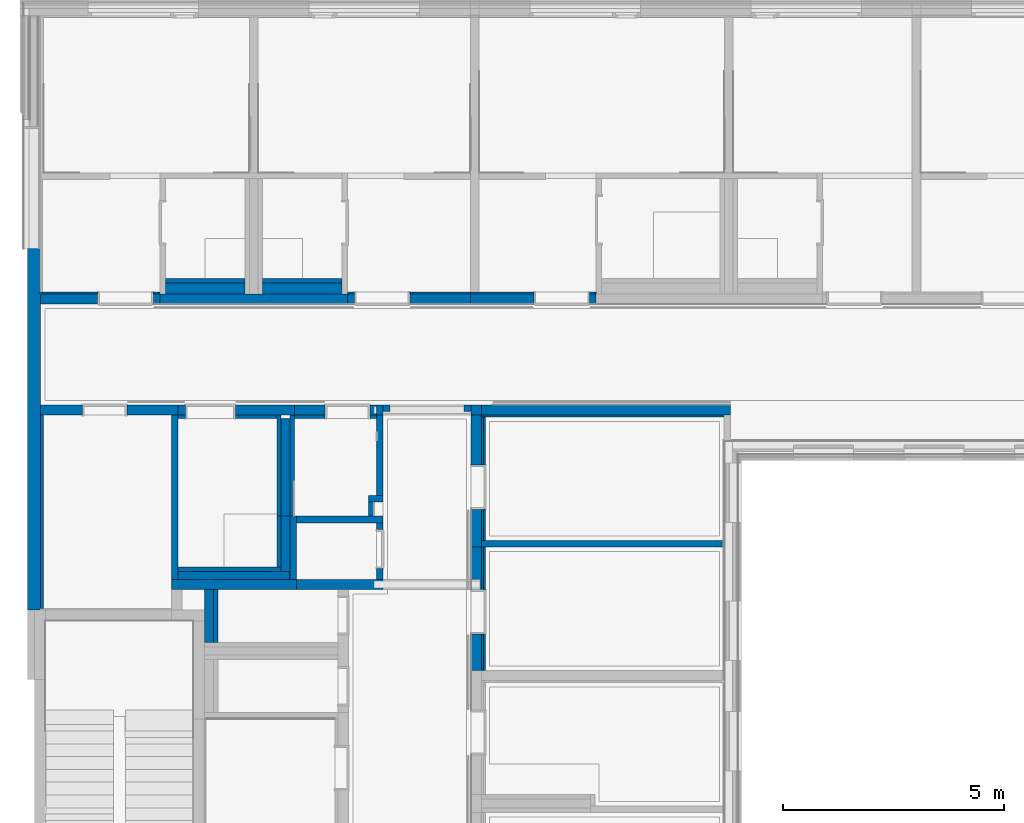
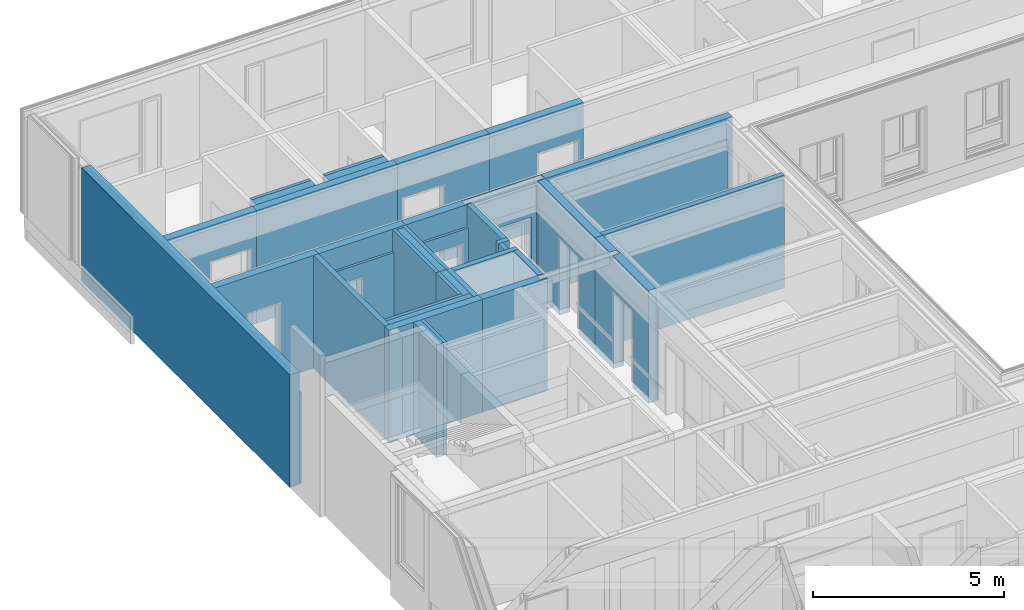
# One storey, part 16 of 207: 48 walls, 19 openings.
"""IFC4 building model written with IfcOpenShell, lengths in metres."""

from ifc_helpers import new_model, entity, si_unit, converted_unit, derived_unit, frame, frame_2d, origin, origin_with_axes, place, context, subcontext, project, spatial, polyline, rectangle, outline, extrude, clip, bounded_halfspace, material, element, save


model = new_model("IFC4")

# Units and contexts
model_context = context("Model", 3, precision=1e-05, world=origin())
body_context = subcontext(model_context, "Body", "Model", "MODEL_VIEW")
ifc_project = project(units=[si_unit("LENGTHUNIT", "METRE"), si_unit("AREAUNIT", "SQUARE_METRE"), si_unit("VOLUMEUNIT", "CUBIC_METRE"), si_unit("MASSUNIT", "GRAM", prefix="KILO"), converted_unit("PLANEANGLEUNIT", "DEGREE", entity("IfcPlaneAngleMeasure", 0.0174532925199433), si_unit("PLANEANGLEUNIT", "RADIAN"), dimensions=[0, 0, 0, 0, 0, 0, 0]), derived_unit("THERMALTRANSMITTANCEUNIT", [(si_unit("POWERUNIT", "WATT"), 1), (si_unit("THERMODYNAMICTEMPERATUREUNIT", "KELVIN"), -1), (si_unit("LENGTHUNIT", "METRE"), -2)]), derived_unit("VOLUMETRICFLOWRATEUNIT", [(si_unit("LENGTHUNIT", "METRE"), 3), (converted_unit("TIMEUNIT", "hour", entity("IfcTimeMeasure", 3600.0), si_unit("TIMEUNIT", "SECOND"), dimensions=[0, 0, 1, 0, 0, 0, 0]), -1), (si_unit("LENGTHUNIT", "METRE"), -1)])], contexts=[model_context])

# Site, building, storey
site_placement = place(None, origin())
site = spatial("IfcSite", under=ifc_project, at=site_placement, Name="Psychiatrie Neubau Wunstorf", CompositionType="ELEMENT")
building_placement = place(site_placement, origin())
building = spatial("IfcBuilding", under=site, at=building_placement, Name="Neubau H2 Stationsgebäude", CompositionType="ELEMENT")
storey_placement = place(building_placement, frame((0.0, 0.0, -0.2)))
storey = spatial("IfcBuildingStorey", under=building, at=storey_placement, Name="H2 Ebene 0", CompositionType="ELEMENT", Elevation=-0.2)

# Wall
ifc_material_1 = material(Name="WI-HW 60")
wall_1_placement = place(storey_placement, frame((0.169, 17.1949998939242, 0.0), z_axis=(0.0, 0.0, 1.0), x_axis=(2.89452144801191e-16, 1.0, 0.0)))
element("IfcWall", 1, at=wall_1_placement, inside=storey, material=ifc_material_1, context=body_context, shape_type="SweptSolid", body=[
    extrude(rectangle(XDim=10.8992446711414, YDim=0.29, at=frame_2d((5.44962233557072, 0.145), x_axis=(1.0, 0.0))), origin_with_axes(), (0.0, 0.0, 1.0), 3.6),
])

# Wall, opening
ifc_material_2 = material(Name="WI-LB")
wall_2_placement = place(storey_placement, frame((7.775, 19.1650101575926, 0.0), z_axis=(0.0, 0.0, 1.0), x_axis=(0.0, -1.0, 0.0)))
wall_2 = element("IfcWall", 2, at=wall_2_placement, inside=storey, material=ifc_material_2, context=body_context, shape_type="SweptSolid", body=[
    extrude(rectangle(XDim=1.2789969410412, YDim=0.15, at=frame_2d((0.639498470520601, 0.075), x_axis=(1.0, 0.0))), origin_with_axes(), (0.0, 0.0, 1.0), 3.6),
])
opening_1_placement = place(wall_2_placement, frame((1.03500010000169, 0.15, 0.0), z_axis=(0.0, -1.0, 0.0), x_axis=(0.0, 0.0, 1.0)))
element("IfcOpeningElement", 3, at=opening_1_placement, cuts=wall_2, Name="Türöffnung", ObjectType="Opening", context=body_context, shape_type="SweptSolid", body=[
    extrude(outline(polyline([(2.46, 0.885000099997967), (2.46, 0.0), (0.0, 0.0), (0.0, 0.885000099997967), (2.46, 0.885000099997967)])), origin_with_axes(), (0.0, 0.0, 1.0), 0.15),
])

# Wall
ifc_material_3 = material(Name="WI-LB")
wall_3_placement = place(storey_placement, frame((3.28900622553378, 17.8860132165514, 0.0), z_axis=(0.0, 0.0, 1.0), x_axis=(0.0, 1.0, 0.0)))
element("IfcWall", 4, at=wall_3_placement, inside=storey, material=ifc_material_3, context=body_context, shape_type="SweptSolid", body=[
    extrude(rectangle(XDim=3.71798678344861, YDim=0.150006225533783, at=frame_2d((1.8589933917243, 0.0750031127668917), x_axis=(1.0, 0.0))), origin_with_axes(), (0.0, 0.0, 1.0), 3.6),
])

# Wall, opening
ifc_material_4 = material(Name="WI-HW 60")
wall_4_placement = place(storey_placement, frame((0.169, 21.604, 0.0)))
wall_4 = element("IfcWall", 5, at=wall_4_placement, inside=storey, material=ifc_material_4, context=body_context, shape_type="SweptSolid", body=[
    extrude(rectangle(XDim=3.12000622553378, YDim=0.232, at=frame_2d((1.56000311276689, 0.116), x_axis=(1.0, 0.0))), origin_with_axes(), (0.0, 0.0, 1.0), 3.6),
])
opening_2_placement = place(wall_4_placement, frame((0.948454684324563, 0.0, 0.0), z_axis=(0.0, 1.0, 0.0), x_axis=(0.0, 0.0, 1.0)))
element("IfcOpeningElement", 6, at=opening_2_placement, cuts=wall_4, Name="SMT", ObjectType="Opening", context=body_context, shape_type="SweptSolid", body=[
    extrude(outline(polyline([(2.46, 1.01), (2.46, 0.0), (0.0, 0.0), (0.0, 1.01), (2.46, 1.01)])), origin_with_axes(), (0.0, 0.0, 1.0), 0.232),
])

# Walls
ifc_material_5 = material(Name="WI-HW 60")
wall_5_placement = place(storey_placement, frame((7.925, 21.836, 0.0), z_axis=(0.0, 0.0, 1.0), x_axis=(-1.0, 0.0, 0.0)))
element("IfcWall", 7, at=wall_5_placement, inside=storey, material=ifc_material_5, context=body_context, shape_type="Clipping", body=[
    clip(extrude(rectangle(XDim=0.150006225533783, YDim=0.232, at=frame_2d((0.0750031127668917, 0.116), x_axis=(1.0, 0.0))), origin_with_axes(), (0.0, 0.0, 1.0), 3.6), bounded_halfspace(frame((0.0750031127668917, 0.11600156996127, 3.4), z_axis=(0.0, 0.0, -1.0), x_axis=(0.0, 1.0, 0.0)), True, origin_with_axes(), polyline([(0.150006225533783, 0.0360015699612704), (0.150006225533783, 0.19600156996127), (0.0, 0.19600156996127), (0.0, 0.0360015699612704), (0.150006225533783, 0.0360015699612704)]))),
])
ifc_material_6 = material(Name="WI-HW 60")
wall_6_placement = place(storey_placement, frame((5.97040586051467, 17.8860132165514, 0.0), z_axis=(0.0, 0.0, 1.0), x_axis=(-1.0, 0.0, 0.0)))
element("IfcWall", 8, at=wall_6_placement, inside=storey, material=ifc_material_6, context=body_context, shape_type="SweptSolid", body=[
    extrude(outline(polyline([(-2.83140586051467, -0.232), (0.0, -0.232), (0.0, 0.0), (-2.83138824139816, 0.0), (-2.83140586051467, -0.232)])), frame((2.83140586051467, 0.232, 0.0), z_axis=(0.0, 0.0, 1.0), x_axis=(1.0, 0.0, 0.0)), (0.0, 0.0, 1.0), 3.6),
])
ifc_material_7 = material(Name="WI-LB")
wall_7_placement = place(storey_placement, frame((15.639, 18.768, 0.0), z_axis=(0.0, 0.0, 1.0), x_axis=(-1.0, 0.0, 0.0)))
element("IfcWall", 9, at=wall_7_placement, inside=storey, material=ifc_material_7, context=body_context, shape_type="SweptSolid", body=[
    extrude(rectangle(XDim=5.48949997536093, YDim=0.15, at=frame_2d((2.74474998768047, 0.075), x_axis=(1.0, 0.0))), origin_with_axes(), (0.0, 0.0, 1.0), 3.6),
])
ifc_material_8 = material(Name="WI-HW 60")
wall_8_placement = place(storey_placement, frame((15.789, 21.836, 0.0), z_axis=(0.0, 0.0, 1.0), x_axis=(-1.0, 0.0, 0.0)))
element("IfcWall", 10, at=wall_8_placement, inside=storey, material=ifc_material_8, context=body_context, shape_type="SweptSolid", body=[
    extrude(rectangle(XDim=5.63949997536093, YDim=0.232, at=frame_2d((2.81974998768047, 0.116), x_axis=(1.0, 0.0))), origin_with_axes(), (0.0, 0.0, 1.0), 3.6),
])
ifc_material_9 = material(Name="WI-LB")
wall_9_placement = place(storey_placement, frame((15.639, 21.604, 0.0), z_axis=(0.0, 0.0, 1.0), x_axis=(-1.0, 0.0, 0.0)))
element("IfcWall", 11, at=wall_9_placement, inside=storey, material=ifc_material_9, context=body_context, shape_type="SweptSolid", body=[
    extrude(rectangle(XDim=5.48949997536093, YDim=0.04, at=frame_2d((2.74474998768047, 0.02), x_axis=(1.0, 0.0))), origin_with_axes(), (0.0, 0.0, 1.0), 2.95),
])

# Wall, opening
ifc_material_10 = material(Name="WI-LB")
wall_10_placement = place(storey_placement, frame((10.2390000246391, 18.768, 0.0), z_axis=(0.0, 0.0, 1.0), x_axis=(0.0, 1.0, 0.0)))
wall_10 = element("IfcWall", 12, at=wall_10_placement, inside=storey, material=ifc_material_10, context=body_context, shape_type="SweptSolid", body=[
    extrude(rectangle(XDim=2.796, YDim=0.0395, at=frame_2d((1.398, 0.01975), x_axis=(1.0, 0.0))), origin_with_axes(), (0.0, 0.0, 1.0), 2.95),
])
opening_3_placement = place(wall_10_placement, frame((1.71, 0.0395, 0.0), z_axis=(0.0, -1.0, 0.0), x_axis=(0.0, 0.0, 1.0)))
element("IfcOpeningElement", 13, at=opening_3_placement, cuts=wall_10, Name="Türöffnung", ObjectType="Opening", context=body_context, shape_type="SweptSolid", body=[
    extrude(outline(polyline([(2.46, 1.01), (2.46, 0.0), (0.0, 0.0), (0.0, 1.01), (2.46, 1.01)])), origin_with_axes(), (0.0, 0.0, 1.0), 0.0395),
])

ifc_material_11 = material(Name="Installationsraum")
wall_11_placement = place(storey_placement, frame((10.1995000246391, 18.768, 0.0), z_axis=(0.0, 0.0, 1.0), x_axis=(0.0, 1.0, 0.0)))
wall_11 = element("IfcWall", 14, at=wall_11_placement, inside=storey, material=ifc_material_11, context=body_context, shape_type="SweptSolid", body=[
    extrude(outline(polyline([(0.0, -0.05), (2.796, -0.05), (2.796, -0.01975), (2.796, 0.0), (0.0, 0.0), (0.0, -0.05)])), frame((0.0, 0.05, 0.0), z_axis=(0.0, 0.0, 1.0), x_axis=(1.0, 0.0, 0.0)), (0.0, 0.0, 1.0), 2.95),
])
opening_4_placement = place(wall_11_placement, frame((1.71, 0.05, 0.0), z_axis=(0.0, -1.0, 0.0), x_axis=(0.0, 0.0, 1.0)))
element("IfcOpeningElement", 15, at=opening_4_placement, cuts=wall_11, Name="Türöffnung", ObjectType="Opening", context=body_context, shape_type="SweptSolid", body=[
    extrude(outline(polyline([(2.46, 1.01), (2.46, 0.0), (0.0, 0.0), (0.0, 1.01), (2.46, 1.01)])), origin_with_axes(), (0.0, 0.0, 1.0), 0.05),
])

ifc_material_12 = material(Name="WI-HW 60")
wall_12_placement = place(storey_placement, frame((10.1495000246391, 18.618, 0.0), z_axis=(0.0, 0.0, 1.0), x_axis=(0.0, 1.0, 0.0)))
wall_12 = element("IfcWall", 16, at=wall_12_placement, inside=storey, material=ifc_material_12, context=body_context, shape_type="SweptSolid", body=[
    extrude(rectangle(XDim=2.986, YDim=0.232, at=frame_2d((1.493, 0.116), x_axis=(1.0, 0.0))), origin_with_axes(), (0.0, 0.0, 1.0), 3.6),
])
opening_5_placement = place(wall_12_placement, frame((1.86, 0.232, 0.0), z_axis=(0.0, -1.0, 0.0), x_axis=(0.0, 0.0, 1.0)))
element("IfcOpeningElement", 17, at=opening_5_placement, cuts=wall_12, Name="Türöffnung", ObjectType="Opening", context=body_context, shape_type="SweptSolid", body=[
    extrude(outline(polyline([(2.46, 1.01), (2.46, 0.0), (0.0, 0.0), (0.0, 1.01), (2.46, 1.01)])), origin_with_axes(), (0.0, 0.0, 1.0), 0.232),
])

# Walls
ifc_material_13 = material(Name="WI-LB")
wall_13_placement = place(storey_placement, frame((7.925, 19.7900101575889, 0.0), z_axis=(0.0, 0.0, 1.0), x_axis=(0.0, 1.0, 0.0)))
element("IfcWall", 18, at=wall_13_placement, inside=storey, material=ifc_material_13, context=body_context, shape_type="SweptSolid", body=[
    extrude(rectangle(XDim=1.81398984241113, YDim=0.150006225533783, at=frame_2d((0.906994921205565, 0.0750031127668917), x_axis=(1.0, 0.0))), origin_with_axes(), (0.0, 0.0, 1.0), 3.6),
])
ifc_material_14 = material(Name="WI-LB")
wall_14_placement = place(storey_placement, frame((7.725, 19.3150163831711, 0.0), z_axis=(0.0, 0.0, 1.0), x_axis=(0.0, 1.0, 0.0)))
element("IfcWall", 19, at=wall_14_placement, inside=storey, material=ifc_material_14, context=body_context, shape_type="SweptSolid", body=[
    extrude(rectangle(XDim=0.325, YDim=0.125, at=frame_2d((0.1625, 0.0625), x_axis=(1.0, 0.0))), origin_with_axes(), (0.0, 0.0, 1.0), 3.6),
])
ifc_material_15 = material(Name="WI-LB")
wall_15_placement = place(storey_placement, frame((7.925, 19.6400163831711, 0.0), z_axis=(0.0, 0.0, 1.0), x_axis=(0.0, 1.0, 0.0)))
element("IfcWall", 20, at=wall_15_placement, inside=storey, material=ifc_material_15, context=body_context, shape_type="SweptSolid", body=[
    extrude(rectangle(XDim=0.149993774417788, YDim=0.325, at=frame_2d((0.0749968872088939, 0.1625), x_axis=(1.0, 0.0))), origin_with_axes(), (0.0, 0.0, 1.0), 3.6),
])

# Wall, opening
ifc_material_16 = material(Name="WI-LB")
wall_16_placement = place(storey_placement, frame((10.2390000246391, 15.8255, 0.0), z_axis=(0.0, 0.0, 1.0), x_axis=(0.0, 1.0, 0.0)))
wall_16 = element("IfcWall", 21, at=wall_16_placement, inside=storey, material=ifc_material_16, context=body_context, shape_type="SweptSolid", body=[
    extrude(rectangle(XDim=2.7925, YDim=0.0395, at=frame_2d((1.39625, 0.01975), x_axis=(1.0, 0.0))), origin_with_axes(), (0.0, 0.0, 1.0), 2.95),
])
opening_6_placement = place(wall_16_placement, frame((1.82851321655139, 0.0395, 0.0), z_axis=(0.0, -1.0, 0.0), x_axis=(0.0, 0.0, 1.0)))
element("IfcOpeningElement", 22, at=opening_6_placement, cuts=wall_16, Name="Türöffnung", ObjectType="Opening", context=body_context, shape_type="SweptSolid", body=[
    extrude(outline(polyline([(2.46, 1.01), (2.46, 0.0), (0.0, 0.0), (0.0, 1.01), (2.46, 1.01)])), origin_with_axes(), (0.0, 0.0, 1.0), 0.0395),
])

ifc_material_17 = material(Name="Installationsraum")
wall_17_placement = place(storey_placement, frame((10.1995000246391, 15.8255, 0.0), z_axis=(0.0, 0.0, 1.0), x_axis=(0.0, 1.0, 0.0)))
wall_17 = element("IfcWall", 23, at=wall_17_placement, inside=storey, material=ifc_material_17, context=body_context, shape_type="SweptSolid", body=[
    extrude(rectangle(XDim=2.7925, YDim=0.05, at=frame_2d((1.39625, 0.025), x_axis=(1.0, 0.0))), origin_with_axes(), (0.0, 0.0, 1.0), 2.95),
])
opening_7_placement = place(wall_17_placement, frame((1.82851321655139, 0.05, 0.0), z_axis=(0.0, -1.0, 0.0), x_axis=(0.0, 0.0, 1.0)))
element("IfcOpeningElement", 24, at=opening_7_placement, cuts=wall_17, Name="Türöffnung", ObjectType="Opening", context=body_context, shape_type="SweptSolid", body=[
    extrude(outline(polyline([(2.46, 1.01), (2.46, 0.0), (0.0, 0.0), (0.0, 1.01), (2.46, 1.01)])), origin_with_axes(), (0.0, 0.0, 1.0), 0.05),
])

ifc_material_18 = material(Name="WI-HW 60")
wall_18_placement = place(storey_placement, frame((10.1495000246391, 15.8255, 0.0), z_axis=(0.0, 0.0, 1.0), x_axis=(0.0, 1.0, 0.0)))
wall_18 = element("IfcWall", 25, at=wall_18_placement, inside=storey, material=ifc_material_18, context=body_context, shape_type="Clipping", body=[
    clip(extrude(rectangle(XDim=2.7925, YDim=0.232, at=frame_2d((1.39625, 0.116), x_axis=(1.0, 0.0))), origin_with_axes(), (0.0, 0.0, 1.0), 3.6), bounded_halfspace(frame((1.9445126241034, 0.12825213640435, 3.4), z_axis=(0.0, 0.0, -1.0), x_axis=(-1.0, 0.0, 0.0)), True, origin_with_axes(), polyline([(2.02451262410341, 0.232), (1.8645126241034, 0.232), (1.8645126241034, 0.0245042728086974), (2.02451262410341, 0.0245042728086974), (2.02451262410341, 0.232)]))),
])
opening_8_placement = place(wall_18_placement, frame((1.82851321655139, 0.232, 0.0), z_axis=(0.0, -1.0, 0.0), x_axis=(0.0, 0.0, 1.0)))
element("IfcOpeningElement", 26, at=opening_8_placement, cuts=wall_18, Name="Türöffnung", ObjectType="Opening", context=body_context, shape_type="SweptSolid", body=[
    extrude(outline(polyline([(2.46, 1.01), (2.46, 0.0), (0.0, 0.0), (0.0, 1.01), (2.46, 1.01)])), origin_with_axes(), (0.0, 0.0, 1.0), 0.232),
])

ifc_material_19 = material(Name="WI-HW 60")
wall_19_placement = place(storey_placement, frame((0.169, 24.1175, 0.0), z_axis=(0.0, 0.0, 1.0), x_axis=(1.0, 2.6888239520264e-15, 0.0)))
wall_19 = element("IfcWall", 27, at=wall_19_placement, inside=storey, material=ifc_material_19, context=body_context, shape_type="SweptSolid", body=[
    extrude(rectangle(XDim=2.706, YDim=0.232, at=frame_2d((1.353, 0.116), x_axis=(1.0, 0.0))), origin_with_axes(), (0.0, 0.0, 1.0), 3.6),
])
opening_9_placement = place(wall_19_placement, frame((1.296, 0.0, 0.0), z_axis=(2.940176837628e-15, 1.0, 0.0), x_axis=(0.0, 0.0, 1.0)))
element("IfcOpeningElement", 28, at=opening_9_placement, cuts=wall_19, Name="Türöffnung", ObjectType="Opening", context=body_context, shape_type="SweptSolid", body=[
    extrude(outline(polyline([(2.46, 1.26), (2.46, 0.0), (0.0, 0.0), (0.0, 1.26), (2.46, 1.26)])), origin_with_axes(), (0.0, 0.0, 1.0), 0.232),
])

ifc_material_20 = material(Name="WI-LB")
wall_20_placement = place(storey_placement, frame((0.169, 24.3495, 0.0), z_axis=(0.0, 0.0, 1.0), x_axis=(1.0, 2.68882395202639e-15, 0.0)))
wall_20 = element("IfcWall", 29, at=wall_20_placement, inside=storey, material=ifc_material_20, context=body_context, shape_type="SweptSolid", body=[
    extrude(rectangle(XDim=2.706, YDim=0.04, at=frame_2d((1.353, 0.02), x_axis=(1.0, 0.0))), origin_with_axes(), (0.0, 0.0, 1.0), 2.9),
])
opening_10_placement = place(wall_20_placement, frame((1.296, 0.0, 0.0), z_axis=(0.0, 1.0, 0.0), x_axis=(0.0, 0.0, 1.0)))
element("IfcOpeningElement", 30, at=opening_10_placement, cuts=wall_20, Name="Türöffnung", ObjectType="Opening", context=body_context, shape_type="SweptSolid", body=[
    extrude(outline(polyline([(2.46, 1.26), (2.46, 0.0), (0.0, 0.0), (0.0, 1.26), (2.46, 1.26)])), origin_with_axes(), (0.0, 0.0, 1.0), 0.04),
])

# Walls
ifc_material_21 = material(Name="WI-HW 60")
wall_21_placement = place(storey_placement, frame((2.875, 24.1175, 0.0), z_axis=(0.0, 0.0, 1.0), x_axis=(1.0, 1.71199002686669e-15, 0.0)))
element("IfcWall", 31, at=wall_21_placement, inside=storey, material=ifc_material_21, context=body_context, shape_type="SweptSolid", body=[
    extrude(rectangle(XDim=4.25, YDim=0.232, at=frame_2d((2.125, 0.116), x_axis=(1.0, 0.0))), origin_with_axes(), (0.0, 0.0, 1.0), 3.6),
])
ifc_material_22 = material(Name="WI-LB")
wall_22_placement = place(storey_placement, frame((7.925, 19.3150163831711, 0.0), z_axis=(0.0, 0.0, 1.0), x_axis=(-1.0, 1.7589743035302e-12, 0.0)))
element("IfcWall", 32, at=wall_22_placement, inside=storey, material=ifc_material_22, context=body_context, shape_type="SweptSolid", body=[
    extrude(outline(polyline([(-1.95449700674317, -0.150006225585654), (-1.13921426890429e-05, -0.150006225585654), (0.0, 0.0), (-1.95449700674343, 0.0), (-1.95449700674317, -0.150006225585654)])), frame((1.95449700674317, 0.150006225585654, 0.0), z_axis=(0.0, 0.0, 1.0), x_axis=(1.0, 0.0, 0.0)), (0.0, 0.0, 1.0), 3.6),
])
ifc_material_23 = material(Name="Installationsraum")
wall_23_placement = place(storey_placement, frame((3.28900622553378, 17.8860132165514, 0.0)))
element("IfcWall", 33, at=wall_23_placement, inside=storey, material=ifc_material_23, context=body_context, shape_type="SweptSolid", body=[
    extrude(rectangle(XDim=2.51610990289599, YDim=0.174961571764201, at=frame_2d((1.25805495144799, 0.0874807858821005), x_axis=(1.0, 0.0))), origin_with_axes(), (0.0, 0.0, 1.0), 3.6),
])
ifc_material_24 = material(Name="WI-VS")
wall_24_placement = place(storey_placement, frame((3.28900622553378, 18.0609747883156, 0.0)))
element("IfcWall", 34, at=wall_24_placement, inside=storey, material=ifc_material_24, context=body_context, shape_type="SweptSolid", body=[
    extrude(rectangle(XDim=2.33150990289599, YDim=0.1, at=frame_2d((1.16575495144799, 0.05), x_axis=(1.0, 0.0))), origin_with_axes(), (0.0, 0.0, 1.0), 3.6),
])
ifc_material_25 = material(Name="WI-LB")
wall_25_placement = place(storey_placement, frame((5.97040586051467, 17.8860132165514, 0.0), z_axis=(0.0, 0.0, 1.0), x_axis=(7.59444674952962e-05, 0.999999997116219, 0.0)))
element("IfcWall", 35, at=wall_25_placement, inside=storey, material=ifc_material_25, context=body_context, shape_type="SweptSolid", body=[
    extrude(outline(polyline([(1.13921429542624e-05, -0.150006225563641), (1.42901456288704, -0.150006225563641), (1.42900317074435, 0.0), (0.0, 0.0), (1.13921429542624e-05, -0.150006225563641)])), frame((-1.13921429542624e-05, 0.150006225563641, 0.0), z_axis=(0.0, 0.0, 1.0), x_axis=(1.0, 0.0, 0.0)), (0.0, 0.0, 1.0), 3.6),
])
ifc_material_26 = material(Name="WI-HW 60")
wall_26_placement = place(storey_placement, frame((7.92499202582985, 17.8860132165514, 0.0), z_axis=(0.0, 0.0, 1.0), x_axis=(-1.0, 0.0, 0.0)))
element("IfcWall", 36, at=wall_26_placement, inside=storey, material=ifc_material_26, context=body_context, shape_type="Clipping", body=[
    clip(extrude(rectangle(XDim=1.95458616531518, YDim=0.232, at=frame_2d((0.977293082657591, 0.116), x_axis=(1.0, 0.0))), origin_with_axes(), (0.0, 0.0, 1.0), 3.6), bounded_halfspace(frame((0.100001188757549, 0.116000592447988, 3.4), z_axis=(0.0, 0.0, -1.0), x_axis=(0.0, 1.0, 0.0)), True, origin_with_axes(), polyline([(0.200002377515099, 0.0360005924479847), (0.200002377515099, 0.196000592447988), (0.0, 0.196000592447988), (0.0, 0.0360005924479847), (0.200002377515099, 0.0360005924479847)]))),
])
ifc_material_27 = material(Name="WI-IW")
wall_27_placement = place(storey_placement, frame((5.52039963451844, 19.3150163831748, 0.0), z_axis=(0.0, 0.0, 1.0), x_axis=(0.0, -1.0, 0.0)))
element("IfcWall", 37, at=wall_27_placement, inside=storey, material=ifc_material_27, context=body_context, shape_type="SweptSolid", body=[
    extrude(rectangle(XDim=1.15404159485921, YDim=0.100001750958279, at=frame_2d((0.577020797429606, 0.0500008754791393), x_axis=(1.0, 0.0))), origin_with_axes(), (0.0, 0.0, 1.0), 3.6),
])
ifc_material_28 = material(Name="Installationsraum")
wall_28_placement = place(storey_placement, frame((5.62040138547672, 19.3150163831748, 0.0), z_axis=(0.0, 0.0, 1.0), x_axis=(0.0, -1.0, 0.0)))
element("IfcWall", 38, at=wall_28_placement, inside=storey, material=ifc_material_28, context=body_context, shape_type="SweptSolid", body=[
    extrude(outline(polyline([(-1.42900316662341, 0.0), (-0.274961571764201, 0.0), (-0.274961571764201, 0.000114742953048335), (-0.174961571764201, 0.000114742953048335), (-0.174961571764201, 0.184714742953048), (0.0, 0.184714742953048), (0.0, 0.199998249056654), (-1.42900316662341, 0.199998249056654), (-1.42900316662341, 0.0)])), frame((1.42900316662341, 0.0, 0.0), z_axis=(0.0, 0.0, 1.0), x_axis=(1.0, 0.0, 0.0)), (0.0, 0.0, 1.0), 3.6),
])
ifc_material_29 = material(Name="WI-IW")
wall_29_placement = place(storey_placement, frame((5.52050815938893, 21.604, 0.0), z_axis=(0.0, 0.0, 1.0), x_axis=(0.0, -1.0, 0.0)))
element("IfcWall", 39, at=wall_29_placement, inside=storey, material=ifc_material_29, context=body_context, shape_type="SweptSolid", body=[
    extrude(rectangle(XDim=2.28898361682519, YDim=0.100001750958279, at=frame_2d((1.1444918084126, 0.0500008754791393), x_axis=(1.0, 0.0))), origin_with_axes(), (0.0, 0.0, 1.0), 3.6),
])
ifc_material_30 = material(Name="Installationsraum")
wall_30_placement = place(storey_placement, frame((5.62050991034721, 21.529, 0.0), z_axis=(0.0, 0.0, 1.0), x_axis=(0.0, -1.0, 0.0)))
element("IfcWall", 40, at=wall_30_placement, inside=storey, material=ifc_material_30, context=body_context, shape_type="SweptSolid", body=[
    extrude(rectangle(XDim=2.21398361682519, YDim=0.199998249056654, at=frame_2d((1.1069918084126, 0.0999991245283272), x_axis=(1.0, 0.0))), origin_with_axes(), (0.0, 0.0, 1.0), 3.6),
])
ifc_material_31 = material(Name="WI-LB")
wall_31_placement = place(storey_placement, frame((5.82050815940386, 21.604, 0.0), z_axis=(0.0, 0.0, 1.0), x_axis=(0.0, -1.0, 0.0)))
element("IfcWall", 41, at=wall_31_placement, inside=storey, material=ifc_material_31, context=body_context, shape_type="SweptSolid", body=[
    extrude(rectangle(XDim=2.28898361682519, YDim=0.1, at=frame_2d((1.1444918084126, 0.05), x_axis=(1.0, 0.0))), origin_with_axes(), (0.0, 0.0, 1.0), 3.6),
])

# Wall, opening
ifc_material_32 = material(Name="WI-HW 60")
wall_32_placement = place(storey_placement, frame((9.9, 24.1175, 0.0), z_axis=(0.0, 0.0, 1.0), x_axis=(1.0, 2.55296758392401e-15, 0.0)))
wall_32 = element("IfcWall", 42, at=wall_32_placement, inside=storey, material=ifc_material_32, context=body_context, shape_type="SweptSolid", body=[
    extrude(rectangle(XDim=2.85, YDim=0.232, at=frame_2d((1.425, 0.116), x_axis=(1.0, 0.0))), origin_with_axes(), (0.0, 0.0, 1.0), 3.6),
])
opening_11_placement = place(wall_32_placement, frame((1.44, 0.0, 0.0), z_axis=(2.940176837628e-15, 1.0, 0.0), x_axis=(0.0, 0.0, 1.0)))
element("IfcOpeningElement", 43, at=opening_11_placement, cuts=wall_32, Name="Türöffnung", ObjectType="Opening", context=body_context, shape_type="SweptSolid", body=[
    extrude(outline(polyline([(2.46, 1.26), (2.46, 0.0), (0.0, 0.0), (0.0, 1.26), (2.46, 1.26)])), origin_with_axes(), (0.0, 0.0, 1.0), 0.232),
])

ifc_material_33 = material(Name="WI-LB")
wall_33_placement = place(storey_placement, frame((9.9, 24.3495, 0.0), z_axis=(0.0, 0.0, 1.0), x_axis=(1.0, 2.55296758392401e-15, 0.0)))
wall_33 = element("IfcWall", 44, at=wall_33_placement, inside=storey, material=ifc_material_33, context=body_context, shape_type="SweptSolid", body=[
    extrude(rectangle(XDim=2.85, YDim=0.04, at=frame_2d((1.425, 0.02), x_axis=(1.0, 0.0))), origin_with_axes(), (0.0, 0.0, 1.0), 2.9),
])
opening_12_placement = place(wall_33_placement, frame((1.44, 0.0, 0.0), z_axis=(0.0, 1.0, 0.0), x_axis=(0.0, 0.0, 1.0)))
element("IfcOpeningElement", 45, at=opening_12_placement, cuts=wall_33, Name="Türöffnung", ObjectType="Opening", context=body_context, shape_type="SweptSolid", body=[
    extrude(outline(polyline([(2.46, 1.26), (2.46, 0.0), (0.0, 0.0), (0.0, 1.26), (2.46, 1.26)])), origin_with_axes(), (0.0, 0.0, 1.0), 0.04),
])

ifc_material_34 = material(Name="WI-HW 60")
wall_34_placement = place(storey_placement, frame((7.125, 24.1175, 0.0), z_axis=(0.0, 0.0, 1.0), x_axis=(1.0, 2.62196670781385e-15, 0.0)))
wall_34 = element("IfcWall", 46, at=wall_34_placement, inside=storey, material=ifc_material_34, context=body_context, shape_type="SweptSolid", body=[
    extrude(rectangle(XDim=2.775, YDim=0.232, at=frame_2d((1.3875, 0.116), x_axis=(1.0, 0.0))), origin_with_axes(), (0.0, 0.0, 1.0), 3.6),
])
opening_13_placement = place(wall_34_placement, frame((0.15, 0.0, 0.0), z_axis=(2.5726547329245e-15, 1.0, 0.0), x_axis=(0.0, 0.0, 1.0)))
element("IfcOpeningElement", 47, at=opening_13_placement, cuts=wall_34, Name="Türöffnung", ObjectType="Opening", context=body_context, shape_type="SweptSolid", body=[
    extrude(outline(polyline([(2.46, 1.26), (2.46, 0.0), (0.0, 0.0), (0.0, 1.26), (2.46, 1.26)])), origin_with_axes(), (0.0, 0.0, 1.0), 0.232),
])

ifc_material_35 = material(Name="WI-LB")
wall_35_placement = place(storey_placement, frame((7.125, 24.3495, 0.0), z_axis=(0.0, 0.0, 1.0), x_axis=(1.0, 2.62196670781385e-15, 0.0)))
wall_35 = element("IfcWall", 48, at=wall_35_placement, inside=storey, material=ifc_material_35, context=body_context, shape_type="SweptSolid", body=[
    extrude(rectangle(XDim=2.775, YDim=0.04, at=frame_2d((1.3875, 0.02), x_axis=(1.0, 0.0))), origin_with_axes(), (0.0, 0.0, 1.0), 2.9),
])
opening_14_placement = place(wall_35_placement, frame((0.15, 0.0, 0.0), z_axis=(2.8421709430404e-15, 1.0, 0.0), x_axis=(0.0, 0.0, 1.0)))
element("IfcOpeningElement", 49, at=opening_14_placement, cuts=wall_35, Name="Türöffnung", ObjectType="Opening", context=body_context, shape_type="SweptSolid", body=[
    extrude(outline(polyline([(2.46, 1.26), (2.46, 0.0), (0.0, 0.0), (0.0, 1.26), (2.46, 1.26)])), origin_with_axes(), (0.0, 0.0, 1.0), 0.04),
])

ifc_material_36 = material(Name="WI-LW 60")
wall_36_placement = place(storey_placement, frame((9.9175, 21.836, 0.0), z_axis=(0.0, 0.0, 1.0), x_axis=(-1.0, 0.0, 0.0)))
wall_36 = element("IfcWall", 50, at=wall_36_placement, inside=storey, material=ifc_material_36, context=body_context, shape_type="Clipping", body=[
    clip(extrude(rectangle(XDim=1.9925, YDim=0.155, at=frame_2d((0.99625, 0.0775), x_axis=(1.0, 0.0))), origin_with_axes(), (0.0, 0.0, 1.0), 3.6), bounded_halfspace(frame((0.99625, 0.0955007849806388, 3.4), z_axis=(0.0, 0.0, -1.0), x_axis=(1.0, -5.47750886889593e-15, 0.0)), True, origin_with_axes(), polyline([(0.0, 0.036001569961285), (1.9925, 0.0360015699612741), (1.9925, 0.155), (0.0, 0.155), (0.0, 0.036001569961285)]))),
])
opening_15_placement = place(wall_36_placement, frame((1.8375, 0.155, 0.0), z_axis=(0.0, -1.0, 0.0), x_axis=(0.0, 0.0, 1.0)))
element("IfcOpeningElement", 51, at=opening_15_placement, cuts=wall_36, Name="Türöffnung", ObjectType="Opening", context=body_context, shape_type="SweptSolid", body=[
    extrude(outline(polyline([(2.46, 1.6825), (2.46, 0.0), (0.0, 0.0), (0.0, 1.6825), (2.46, 1.6825)])), origin_with_axes(), (0.0, 0.0, 1.0), 0.155),
])

# Walls
ifc_material_37 = material(Name="Installationsraum")
wall_37_placement = place(storey_placement, frame((3.88, 17.6540132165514, 0.0), z_axis=(0.0, 0.0, 1.0), x_axis=(0.0, -1.0, 0.0)))
element("IfcWall", 52, at=wall_37_placement, inside=storey, material=ifc_material_37, context=body_context, shape_type="SweptSolid", body=[
    extrude(rectangle(XDim=1.20200000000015, YDim=0.21, at=frame_2d((0.601000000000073, 0.105), x_axis=(1.0, 0.0))), origin_with_axes(), (0.0, 0.0, 1.0), 3.6),
])
ifc_material_38 = material(Name="WI-VS")
wall_38_placement = place(storey_placement, frame((4.09, 17.6540132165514, 0.0), z_axis=(0.0, 0.0, 1.0), x_axis=(0.0, -1.0, 0.0)))
element("IfcWall", 53, at=wall_38_placement, inside=storey, material=ifc_material_38, context=body_context, shape_type="SweptSolid", body=[
    extrude(rectangle(XDim=1.20200000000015, YDim=0.1, at=frame_2d((0.601000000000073, 0.05), x_axis=(1.0, 0.0))), origin_with_axes(), (0.0, 0.0, 1.0), 3.6),
])
ifc_material_39 = material(Name="WI-LB")
wall_39_placement = place(storey_placement, frame((0.244, 17.2249995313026, 0.0), z_axis=(0.0, 0.0, 1.0), x_axis=(0.0, 1.0, 0.0)))
element("IfcWall", 54, at=wall_39_placement, inside=storey, material=ifc_material_39, context=body_context, shape_type="SweptSolid", body=[
    extrude(rectangle(XDim=4.3790004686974, YDim=0.075, at=frame_2d((2.1895002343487, 0.0375), x_axis=(1.0, 0.0))), origin_with_axes(), (0.0, 0.0, 1.0), 2.9),
])
ifc_material_40 = material(Name="WI-IW")
wall_40_placement = place(storey_placement, frame((4.8, 24.6995, 0.0), z_axis=(0.0, 0.0, 1.0), x_axis=(-1.0, 0.0, 0.0)))
element("IfcWall", 55, at=wall_40_placement, inside=storey, material=ifc_material_40, context=body_context, shape_type="SweptSolid", body=[
    extrude(rectangle(XDim=1.8, YDim=0.1, at=frame_2d((0.9, 0.05), x_axis=(1.0, 0.0))), origin_with_axes(), (0.0, 0.0, 1.0), 3.6),
])
ifc_material_41 = material(Name="Installationsraum")
wall_41_placement = place(storey_placement, frame((4.8, 24.5995, 0.0), z_axis=(0.0, 0.0, 1.0), x_axis=(-1.0, 0.0, 0.0)))
element("IfcWall", 56, at=wall_41_placement, inside=storey, material=ifc_material_41, context=body_context, shape_type="SweptSolid", body=[
    extrude(rectangle(XDim=1.8, YDim=0.25, at=frame_2d((0.9, 0.125), x_axis=(1.0, 0.0))), origin_with_axes(), (0.0, 0.0, 1.0), 3.6),
])
ifc_material_42 = material(Name="WI-IW")
wall_42_placement = place(storey_placement, frame((7.0, 24.6995, 0.0), z_axis=(0.0, 0.0, 1.0), x_axis=(-1.0, 0.0, 0.0)))
element("IfcWall", 57, at=wall_42_placement, inside=storey, material=ifc_material_42, context=body_context, shape_type="SweptSolid", body=[
    extrude(rectangle(XDim=1.8, YDim=0.1, at=frame_2d((0.9, 0.05), x_axis=(1.0, 0.0))), origin_with_axes(), (0.0, 0.0, 1.0), 3.6),
])
ifc_material_43 = material(Name="Installationsraum")
wall_43_placement = place(storey_placement, frame((7.0, 24.5995, 0.0), z_axis=(0.0, 0.0, 1.0), x_axis=(-1.0, 0.0, 0.0)))
element("IfcWall", 58, at=wall_43_placement, inside=storey, material=ifc_material_43, context=body_context, shape_type="SweptSolid", body=[
    extrude(rectangle(XDim=1.8, YDim=0.25, at=frame_2d((0.9, 0.125), x_axis=(1.0, 0.0))), origin_with_axes(), (0.0, 0.0, 1.0), 3.6),
])

# Wall, opening
ifc_material_44 = material(Name="WI-LB")
wall_44_placement = place(storey_placement, frame((3.28900622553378, 21.529, 0.0)))
wall_44 = element("IfcWall", 59, at=wall_44_placement, inside=storey, material=ifc_material_44, context=body_context, shape_type="SweptSolid", body=[
    extrude(rectangle(XDim=2.23150193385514, YDim=0.075, at=frame_2d((1.11575096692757, 0.0375), x_axis=(1.0, 0.0))), origin_with_axes(), (0.0, 0.0, 1.0), 2.9),
])
opening_16_placement = place(wall_44_placement, frame((0.161, 0.0, 0.0), z_axis=(0.0, 1.0, 0.0), x_axis=(0.0, 0.0, 1.0)))
element("IfcOpeningElement", 60, at=opening_16_placement, cuts=wall_44, Name="Türöffnung", ObjectType="Opening", context=body_context, shape_type="SweptSolid", body=[
    extrude(outline(polyline([(2.46, 1.135), (2.46, 0.0), (0.0, 0.0), (0.0, 1.135), (2.46, 1.135)])), origin_with_axes(), (0.0, 0.0, 1.0), 0.075),
])

ifc_material_45 = material(Name="WI-HW 60")
wall_45_placement = place(storey_placement, frame((3.28900622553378, 21.604, 0.0)))
wall_45 = element("IfcWall", 61, at=wall_45_placement, inside=storey, material=ifc_material_45, context=body_context, shape_type="SweptSolid", body=[
    extrude(rectangle(XDim=2.63150193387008, YDim=0.232, at=frame_2d((1.31575096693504, 0.116), x_axis=(1.0, 0.0))), origin_with_axes(), (0.0, 0.0, 1.0), 3.6),
])
opening_17_placement = place(wall_45_placement, frame((0.161, 0.0, 0.0), z_axis=(0.0, 1.0, 0.0), x_axis=(0.0, 0.0, 1.0)))
element("IfcOpeningElement", 62, at=opening_17_placement, cuts=wall_45, Name="Türöffnung", ObjectType="Opening", context=body_context, shape_type="SweptSolid", body=[
    extrude(outline(polyline([(2.46, 1.135), (2.46, 0.0), (0.0, 0.0), (0.0, 1.135), (2.46, 1.135)])), origin_with_axes(), (0.0, 0.0, 1.0), 0.232),
])

ifc_material_46 = material(Name="WI-LB")
wall_46_placement = place(storey_placement, frame((5.92050815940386, 21.529, 0.0)))
wall_46 = element("IfcWall", 63, at=wall_46_placement, inside=storey, material=ifc_material_46, context=body_context, shape_type="SweptSolid", body=[
    extrude(rectangle(XDim=1.85448534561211, YDim=0.075, at=frame_2d((0.927242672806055, 0.0375), x_axis=(1.0, 0.0))), origin_with_axes(), (0.0, 0.0, 1.0), 2.9),
])
opening_18_placement = place(wall_46_placement, frame((0.694485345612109, 0.0, 0.0), z_axis=(0.0, 1.0, 0.0), x_axis=(0.0, 0.0, 1.0)))
element("IfcOpeningElement", 64, at=opening_18_placement, cuts=wall_46, Name="Türöffnung", ObjectType="Opening", context=body_context, shape_type="SweptSolid", body=[
    extrude(outline(polyline([(2.46, 1.01), (2.46, 0.0), (0.0, 0.0), (0.0, 1.01), (2.46, 1.01)])), origin_with_axes(), (0.0, 0.0, 1.0), 0.075),
])

ifc_material_47 = material(Name="WI-HW 60")
wall_47_placement = place(storey_placement, frame((5.92050815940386, 21.604, 0.0)))
wall_47 = element("IfcWall", 65, at=wall_47_placement, inside=storey, material=ifc_material_47, context=body_context, shape_type="Clipping", body=[
    clip(extrude(rectangle(XDim=1.85448534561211, YDim=0.232, at=frame_2d((0.927242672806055, 0.116), x_axis=(1.0, 0.0))), origin_with_axes(), (0.0, 0.0, 1.0), 3.6), bounded_halfspace(frame((1.8294834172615, 0.11599843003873, 3.4), z_axis=(0.0, 0.0, -1.0), x_axis=(0.0, -1.0, 0.0)), True, origin_with_axes(), polyline([(1.80448148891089, 0.19599843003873), (1.80448148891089, 0.0359984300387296), (1.85448534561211, 0.0359984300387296), (1.85448534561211, 0.19599843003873), (1.80448148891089, 0.19599843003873)]))),
])
opening_19_placement = place(wall_47_placement, frame((0.694485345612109, 0.0, 0.0), z_axis=(0.0, 1.0, 0.0), x_axis=(0.0, 0.0, 1.0)))
element("IfcOpeningElement", 66, at=opening_19_placement, cuts=wall_47, Name="Türöffnung", ObjectType="Opening", context=body_context, shape_type="SweptSolid", body=[
    extrude(outline(polyline([(2.46, 1.01), (2.46, 0.0), (0.0, 0.0), (0.0, 1.01), (2.46, 1.01)])), origin_with_axes(), (0.0, 0.0, 1.0), 0.232),
])

# Wall
ifc_material_48 = material(Name="WI-HW 60")
wall_48_placement = place(storey_placement, frame((10.1495000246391, 21.836, 0.0), z_axis=(0.0, 0.0, 1.0), x_axis=(-1.0, 0.0, 0.0)))
element("IfcWall", 67, at=wall_48_placement, inside=storey, material=ifc_material_48, context=body_context, shape_type="Clipping", body=[
    clip(extrude(rectangle(XDim=0.232, YDim=0.232, at=frame_2d((0.116, 0.116), x_axis=(1.0, 0.0))), origin_with_axes(), (0.0, 0.0, 1.0), 3.6), bounded_halfspace(frame((0.128252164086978, 0.116001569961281, 3.4), z_axis=(0.0, 0.0, -1.0), x_axis=(0.0, 1.0, 0.0)), True, origin_with_axes(), polyline([(0.232, 0.0360015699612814), (0.232, 0.196001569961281), (0.0245043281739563, 0.196001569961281), (0.0245043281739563, 0.0360015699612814), (0.232, 0.0360015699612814)]))),
])

save(model, "model.ifc")
